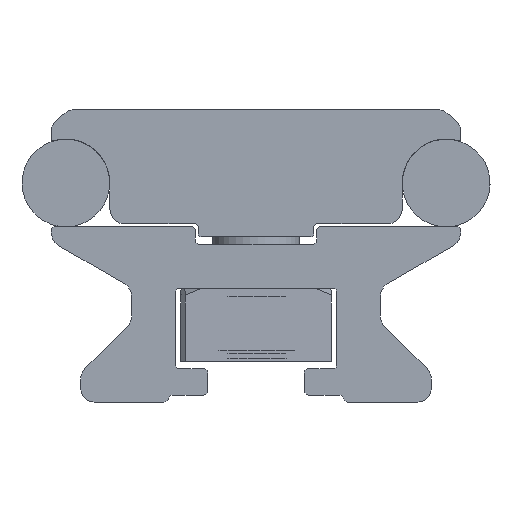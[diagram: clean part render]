
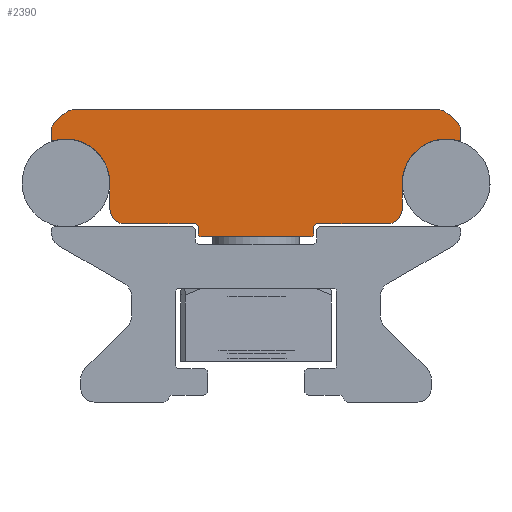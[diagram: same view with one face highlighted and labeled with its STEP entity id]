
A CAD part, left-side view. The second image highlights one B-rep face of the part: STEP entity #2390.
In plain terms, the highlighted planar face has unit normal (-1, 0, 0).
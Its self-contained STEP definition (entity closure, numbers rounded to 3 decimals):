
#105=CIRCLE('',#2563,3.011);
#107=CIRCLE('',#2566,0.1);
#109=CIRCLE('',#2570,1.);
#111=CIRCLE('',#2574,1.);
#120=CIRCLE('',#2585,1.);
#122=CIRCLE('',#2589,1.);
#124=CIRCLE('',#2593,0.1);
#126=CIRCLE('',#2596,3.011);
#128=CIRCLE('',#2600,1.);
#130=CIRCLE('',#2604,0.2);
#132=CIRCLE('',#2608,0.2);
#141=CIRCLE('',#2619,0.2);
#143=CIRCLE('',#2623,0.2);
#145=CIRCLE('',#2627,1.);
#437=ORIENTED_EDGE('',*,*,#949,.F.);
#438=ORIENTED_EDGE('',*,*,#1039,.F.);
#439=ORIENTED_EDGE('',*,*,#1036,.F.);
#440=ORIENTED_EDGE('',*,*,#1033,.F.);
#441=ORIENTED_EDGE('',*,*,#1030,.F.);
#442=ORIENTED_EDGE('',*,*,#1027,.F.);
#443=ORIENTED_EDGE('',*,*,#1024,.F.);
#444=ORIENTED_EDGE('',*,*,#1014,.F.);
#445=ORIENTED_EDGE('',*,*,#1011,.F.);
#446=ORIENTED_EDGE('',*,*,#1008,.F.);
#447=ORIENTED_EDGE('',*,*,#1005,.F.);
#448=ORIENTED_EDGE('',*,*,#1002,.F.);
#449=ORIENTED_EDGE('',*,*,#999,.F.);
#450=ORIENTED_EDGE('',*,*,#996,.F.);
#451=ORIENTED_EDGE('',*,*,#993,.F.);
#452=ORIENTED_EDGE('',*,*,#990,.F.);
#453=ORIENTED_EDGE('',*,*,#987,.F.);
#454=ORIENTED_EDGE('',*,*,#984,.F.);
#455=ORIENTED_EDGE('',*,*,#981,.F.);
#456=ORIENTED_EDGE('',*,*,#978,.F.);
#457=ORIENTED_EDGE('',*,*,#968,.F.);
#458=ORIENTED_EDGE('',*,*,#965,.F.);
#459=ORIENTED_EDGE('',*,*,#962,.F.);
#460=ORIENTED_EDGE('',*,*,#959,.F.);
#461=ORIENTED_EDGE('',*,*,#956,.F.);
#462=ORIENTED_EDGE('',*,*,#953,.F.);
#949=EDGE_CURVE('',#1277,#1278,#1510,.T.);
#953=EDGE_CURVE('',#1278,#1281,#105,.T.);
#956=EDGE_CURVE('',#1281,#1283,#107,.T.);
#959=EDGE_CURVE('',#1283,#1285,#1516,.T.);
#962=EDGE_CURVE('',#1285,#1287,#109,.T.);
#965=EDGE_CURVE('',#1287,#1289,#1520,.T.);
#968=EDGE_CURVE('',#1289,#1291,#111,.T.);
#978=EDGE_CURVE('',#1291,#1300,#1524,.T.);
#981=EDGE_CURVE('',#1300,#1302,#120,.T.);
#984=EDGE_CURVE('',#1302,#1304,#1528,.T.);
#987=EDGE_CURVE('',#1304,#1306,#122,.T.);
#990=EDGE_CURVE('',#1306,#1308,#1532,.T.);
#993=EDGE_CURVE('',#1308,#1310,#124,.T.);
#996=EDGE_CURVE('',#1310,#1312,#126,.T.);
#999=EDGE_CURVE('',#1312,#1314,#1537,.T.);
#1002=EDGE_CURVE('',#1314,#1316,#128,.T.);
#1005=EDGE_CURVE('',#1316,#1318,#1541,.T.);
#1008=EDGE_CURVE('',#1318,#1320,#130,.T.);
#1011=EDGE_CURVE('',#1320,#1322,#1545,.T.);
#1014=EDGE_CURVE('',#1322,#1324,#132,.T.);
#1024=EDGE_CURVE('',#1324,#1333,#1549,.T.);
#1027=EDGE_CURVE('',#1333,#1335,#141,.T.);
#1030=EDGE_CURVE('',#1335,#1337,#1553,.T.);
#1033=EDGE_CURVE('',#1337,#1339,#143,.T.);
#1036=EDGE_CURVE('',#1339,#1341,#1557,.T.);
#1039=EDGE_CURVE('',#1341,#1277,#145,.T.);
#1277=VERTEX_POINT('',#3619);
#1278=VERTEX_POINT('',#3620);
#1281=VERTEX_POINT('',#3628);
#1283=VERTEX_POINT('',#3634);
#1285=VERTEX_POINT('',#3640);
#1287=VERTEX_POINT('',#3646);
#1289=VERTEX_POINT('',#3652);
#1291=VERTEX_POINT('',#3658);
#1300=VERTEX_POINT('',#3678);
#1302=VERTEX_POINT('',#3684);
#1304=VERTEX_POINT('',#3690);
#1306=VERTEX_POINT('',#3696);
#1308=VERTEX_POINT('',#3702);
#1310=VERTEX_POINT('',#3708);
#1312=VERTEX_POINT('',#3714);
#1314=VERTEX_POINT('',#3720);
#1316=VERTEX_POINT('',#3726);
#1318=VERTEX_POINT('',#3732);
#1320=VERTEX_POINT('',#3738);
#1322=VERTEX_POINT('',#3744);
#1324=VERTEX_POINT('',#3750);
#1333=VERTEX_POINT('',#3770);
#1335=VERTEX_POINT('',#3776);
#1337=VERTEX_POINT('',#3782);
#1339=VERTEX_POINT('',#3788);
#1341=VERTEX_POINT('',#3794);
#1510=LINE('',#3618,#1711);
#1516=LINE('',#3639,#1717);
#1520=LINE('',#3651,#1721);
#1524=LINE('',#3677,#1725);
#1528=LINE('',#3689,#1729);
#1532=LINE('',#3701,#1733);
#1537=LINE('',#3719,#1738);
#1541=LINE('',#3731,#1742);
#1545=LINE('',#3743,#1746);
#1549=LINE('',#3769,#1750);
#1553=LINE('',#3781,#1754);
#1557=LINE('',#3793,#1758);
#1711=VECTOR('',#2849,1000.);
#1717=VECTOR('',#2869,1000.);
#1721=VECTOR('',#2881,1000.);
#1725=VECTOR('',#2907,1000.);
#1729=VECTOR('',#2919,1000.);
#1733=VECTOR('',#2931,1000.);
#1738=VECTOR('',#2950,1000.);
#1742=VECTOR('',#2962,1000.);
#1746=VECTOR('',#2974,1000.);
#1750=VECTOR('',#3000,1000.);
#1754=VECTOR('',#3012,1000.);
#1758=VECTOR('',#3024,1000.);
#1953=EDGE_LOOP('',(#437,#438,#439,#440,#441,#442,#443,#444,#445,#446,#447,
#448,#449,#450,#451,#452,#453,#454,#455,#456,#457,#458,#459,#460,#461,#462));
#2142=FACE_BOUND('',#1953,.T.);
#2303=PLANE('',#2630);
#2390=ADVANCED_FACE('',(#2142),#2303,.T.);
#2563=AXIS2_PLACEMENT_3D('',#3627,#2855,#2856);
#2566=AXIS2_PLACEMENT_3D('',#3633,#2862,#2863);
#2570=AXIS2_PLACEMENT_3D('',#3645,#2874,#2875);
#2574=AXIS2_PLACEMENT_3D('',#3657,#2886,#2887);
#2585=AXIS2_PLACEMENT_3D('',#3683,#2912,#2913);
#2589=AXIS2_PLACEMENT_3D('',#3695,#2924,#2925);
#2593=AXIS2_PLACEMENT_3D('',#3707,#2936,#2937);
#2596=AXIS2_PLACEMENT_3D('',#3713,#2943,#2944);
#2600=AXIS2_PLACEMENT_3D('',#3725,#2955,#2956);
#2604=AXIS2_PLACEMENT_3D('',#3737,#2967,#2968);
#2608=AXIS2_PLACEMENT_3D('',#3749,#2979,#2980);
#2619=AXIS2_PLACEMENT_3D('',#3775,#3005,#3006);
#2623=AXIS2_PLACEMENT_3D('',#3787,#3017,#3018);
#2627=AXIS2_PLACEMENT_3D('',#3799,#3029,#3030);
#2630=AXIS2_PLACEMENT_3D('',#3802,#3035,#3036);
#2849=DIRECTION('',(0.,0.,1.));
#2855=DIRECTION('',(-1.,0.,0.));
#2856=DIRECTION('',(0.,1.,0.));
#2862=DIRECTION('',(1.,0.,0.));
#2863=DIRECTION('',(0.,-1.,0.));
#2869=DIRECTION('',(0.,0.,1.));
#2874=DIRECTION('',(1.,0.,0.));
#2875=DIRECTION('',(0.,1.,0.));
#2881=DIRECTION('',(0.,-0.766,0.643));
#2886=DIRECTION('',(1.,0.,0.));
#2887=DIRECTION('',(0.,1.,0.));
#2907=DIRECTION('',(0.,-1.,0.));
#2912=DIRECTION('',(1.,0.,0.));
#2913=DIRECTION('',(0.,1.,0.));
#2919=DIRECTION('',(0.,-0.766,-0.643));
#2924=DIRECTION('',(1.,0.,0.));
#2925=DIRECTION('',(0.,1.,0.));
#2931=DIRECTION('',(0.,0.,-1.));
#2936=DIRECTION('',(1.,0.,0.));
#2937=DIRECTION('',(0.,1.,0.));
#2943=DIRECTION('',(-1.,0.,0.));
#2944=DIRECTION('',(0.,1.,0.));
#2950=DIRECTION('',(0.,0.,-1.));
#2955=DIRECTION('',(1.,0.,0.));
#2956=DIRECTION('',(0.,1.,0.));
#2962=DIRECTION('',(0.,1.,0.));
#2967=DIRECTION('',(-1.,0.,0.));
#2968=DIRECTION('',(0.,-1.,0.));
#2974=DIRECTION('',(0.,0.,-1.));
#2979=DIRECTION('',(1.,0.,0.));
#2980=DIRECTION('',(0.,1.,0.));
#3000=DIRECTION('',(0.,1.,0.));
#3005=DIRECTION('',(1.,0.,0.));
#3006=DIRECTION('',(0.,-1.,0.));
#3012=DIRECTION('',(0.,0.,1.));
#3017=DIRECTION('',(-1.,0.,0.));
#3018=DIRECTION('',(0.,1.,0.));
#3024=DIRECTION('',(0.,1.,0.));
#3029=DIRECTION('',(1.,0.,0.));
#3030=DIRECTION('',(0.,-1.,0.));
#3035=DIRECTION('',(-1.,0.,0.));
#3036=DIRECTION('',(0.,-1.,0.));
#3618=CARTESIAN_POINT('',(-307.2,2405.317,2043.28));
#3619=CARTESIAN_POINT('',(-307.2,2405.317,2043.28));
#3620=CARTESIAN_POINT('',(-307.2,2405.317,2045.071));
#3627=CARTESIAN_POINT('',(-307.2,2408.327,2045.066));
#3628=CARTESIAN_POINT('',(-307.2,2409.188,2047.951));
#3633=CARTESIAN_POINT('',(-307.2,2409.217,2048.047));
#3634=CARTESIAN_POINT('',(-307.2,2409.317,2048.047));
#3639=CARTESIAN_POINT('',(-307.2,2409.317,2048.047));
#3640=CARTESIAN_POINT('',(-307.2,2409.317,2048.604));
#3645=CARTESIAN_POINT('',(-307.2,2408.317,2048.604));
#3646=CARTESIAN_POINT('',(-307.2,2408.96,2049.37));
#3651=CARTESIAN_POINT('',(-307.2,2408.96,2049.37));
#3652=CARTESIAN_POINT('',(-307.2,2408.392,2049.846));
#3657=CARTESIAN_POINT('',(-307.2,2407.749,2049.08));
#3658=CARTESIAN_POINT('',(-307.2,2407.749,2050.08));
#3677=CARTESIAN_POINT('',(-307.2,2407.749,2050.08));
#3678=CARTESIAN_POINT('',(-307.2,2382.885,2050.08));
#3683=CARTESIAN_POINT('',(-307.2,2382.885,2049.08));
#3684=CARTESIAN_POINT('',(-307.2,2382.242,2049.846));
#3689=CARTESIAN_POINT('',(-307.2,2382.242,2049.846));
#3690=CARTESIAN_POINT('',(-307.2,2381.674,2049.37));
#3695=CARTESIAN_POINT('',(-307.2,2382.317,2048.604));
#3696=CARTESIAN_POINT('',(-307.2,2381.317,2048.604));
#3701=CARTESIAN_POINT('',(-307.2,2381.317,2048.604));
#3702=CARTESIAN_POINT('',(-307.2,2381.317,2048.047));
#3707=CARTESIAN_POINT('',(-307.2,2381.417,2048.047));
#3708=CARTESIAN_POINT('',(-307.2,2381.446,2047.951));
#3713=CARTESIAN_POINT('',(-307.2,2382.306,2045.066));
#3714=CARTESIAN_POINT('',(-307.2,2385.317,2045.08));
#3719=CARTESIAN_POINT('',(-307.2,2385.317,2045.08));
#3720=CARTESIAN_POINT('',(-307.2,2385.317,2043.28));
#3725=CARTESIAN_POINT('',(-307.2,2386.317,2043.28));
#3726=CARTESIAN_POINT('',(-307.2,2386.317,2042.28));
#3731=CARTESIAN_POINT('',(-307.2,2386.317,2042.28));
#3732=CARTESIAN_POINT('',(-307.2,2391.165,2042.28));
#3737=CARTESIAN_POINT('',(-307.2,2391.165,2042.08));
#3738=CARTESIAN_POINT('',(-307.2,2391.365,2042.08));
#3743=CARTESIAN_POINT('',(-307.2,2391.365,2042.08));
#3744=CARTESIAN_POINT('',(-307.2,2391.365,2041.58));
#3749=CARTESIAN_POINT('',(-307.2,2391.565,2041.58));
#3750=CARTESIAN_POINT('',(-307.2,2391.565,2041.38));
#3769=CARTESIAN_POINT('',(-307.2,2395.317,2041.38));
#3770=CARTESIAN_POINT('',(-307.2,2399.069,2041.38));
#3775=CARTESIAN_POINT('',(-307.2,2399.069,2041.58));
#3776=CARTESIAN_POINT('',(-307.2,2399.269,2041.58));
#3781=CARTESIAN_POINT('',(-307.2,2399.269,2041.58));
#3782=CARTESIAN_POINT('',(-307.2,2399.269,2042.08));
#3787=CARTESIAN_POINT('',(-307.2,2399.469,2042.08));
#3788=CARTESIAN_POINT('',(-307.2,2399.469,2042.28));
#3793=CARTESIAN_POINT('',(-307.2,2399.469,2042.28));
#3794=CARTESIAN_POINT('',(-307.2,2404.317,2042.28));
#3799=CARTESIAN_POINT('',(-307.2,2404.317,2043.28));
#3802=CARTESIAN_POINT('',(-307.2,2408.327,2045.066));
